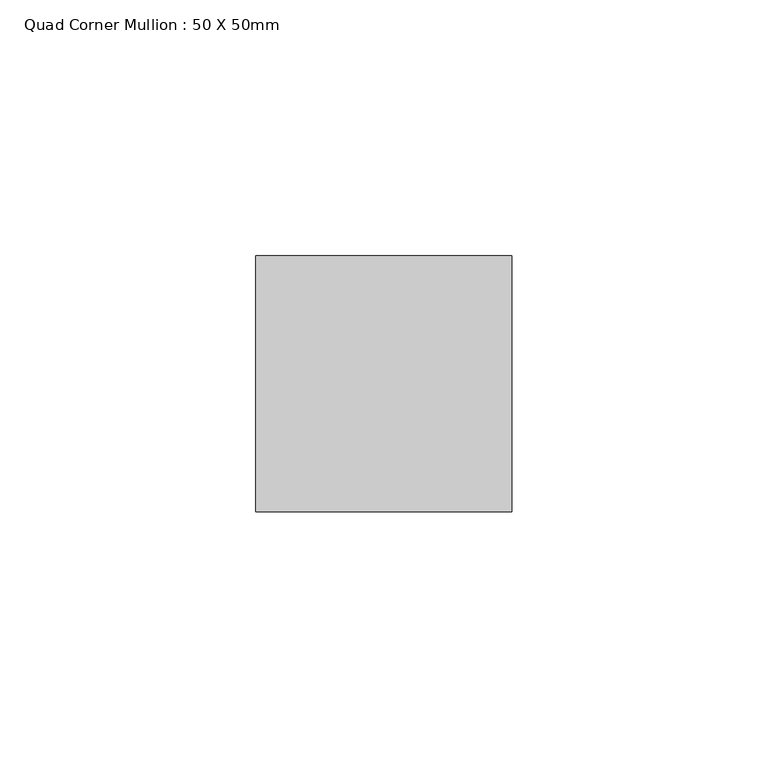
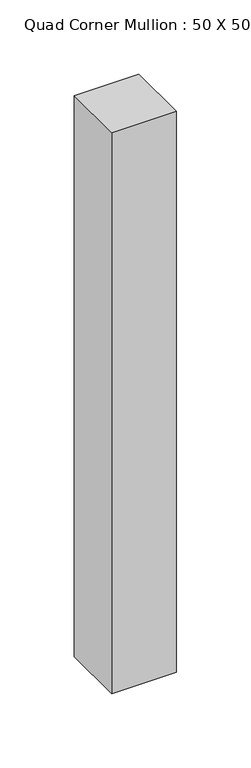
"""IFC4 building model written with IfcOpenShell, lengths in millimetres: member geometry, Quad Corner Mullion : 50 X 50mm."""

from ifc_helpers import new_model, si_unit, frame, origin, place, context, project, spatial, polyline, outline, extrude, source, transform, mapped, element, save


def quad_corner_mullion_50_x_50mm_ba6940c0(model_context):
    return source(origin(), model_context, "Body", "SweptSolid", [
        extrude(outline(polyline([(25.0, -25.0), (-25.0, -25.0), (-25.0, 25.0), (25.0, 25.0), (25.0, -25.0)])), frame((0.0, 0.0, -460.0), z_axis=(0.0, 0.0, 1.0), x_axis=(1.0, 0.0, 0.0)), (0.0, 0.0, 1.0), 460.0),
    ])


if __name__ == "__main__":
    model = new_model("IFC4")
    model_context = context("Model", 3, world=origin())
    ifc_project = project(units=[si_unit("LENGTHUNIT", "METRE", prefix="MILLI")], contexts=[model_context])
    site = spatial("IfcSite", under=ifc_project)
    building = spatial("IfcBuilding", under=site)
    placement = place(None, origin())
    quad_corner_mullion_50_x_50mm_shape = quad_corner_mullion_50_x_50mm_ba6940c0(model_context)
    element("IfcMember", 1, ObjectType="Quad Corner Mullion : 50 X 50mm", at=placement, inside=building, context=model_context, shape_type="MappedRepresentation", body=[
        mapped(quad_corner_mullion_50_x_50mm_shape, transform((0.0, 0.0, 0.0), x_axis=(1.0, 0.0, 0.0), y_axis=(0.0, 1.0, 0.0), z_axis=(0.0, 0.0, 1.0))),
    ])
    save(model, "model.ifc")
